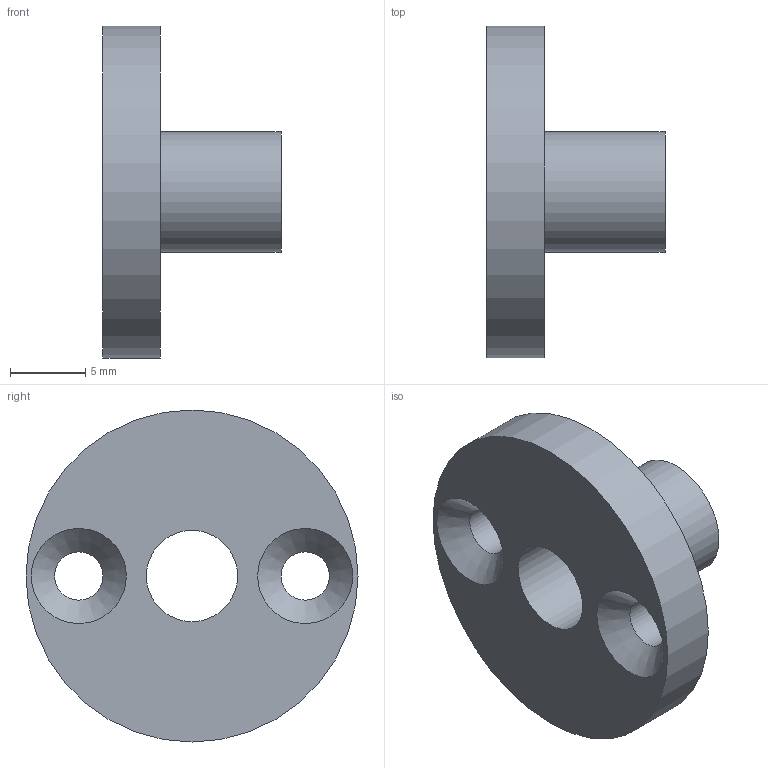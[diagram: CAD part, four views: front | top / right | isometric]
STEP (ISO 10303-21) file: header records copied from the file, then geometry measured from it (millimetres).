
FILE_DESCRIPTION(/* description */ ('Fine Adjustment Bush'),/* implementation_level */ '2;1');
FILE_NAME(/* name */ 'ITPTv2.01.00.33.stp',/* time_stamp */ '2025-02-12T11:21:48+01:00',/* author */ ('Rüdiger Widera'),/* organization */ (''),/* preprocessor_version */ 'ST-DEVELOPER v19.2',/* originating_system */ 'Autodesk Inventor 2024',/* authorisation */ '');
FILE_SCHEMA (('AUTOMOTIVE_DESIGN { 1 0 10303 214 3 1 1 }'));
Length unit declared in the file: millimetre
Products named in the file (1): ITPTv2.01.00.33
Bounding box: 11.8 x 22 x 22 mm (x, y, z)
Volume: 1414.3 mm3; surface area: 1423 mm2
Topology: 1 solids, 1 shells, 10 faces, 19 edges, 12 vertices
Faces by surface type: cylinder 5, plane 3, cone 2
Full cylindrical faces by diameter (mm): 3.2 x2, 6.05 x1, 8 x1, 22 x1
Entity records: 314 total; most frequent: DIRECTION 53, CARTESIAN_POINT 42, ORIENTED_EDGE 38, AXIS2_PLACEMENT_3D 23, EDGE_CURVE 19, EDGE_LOOP 17, CIRCLE 12, VERTEX_POINT 12
